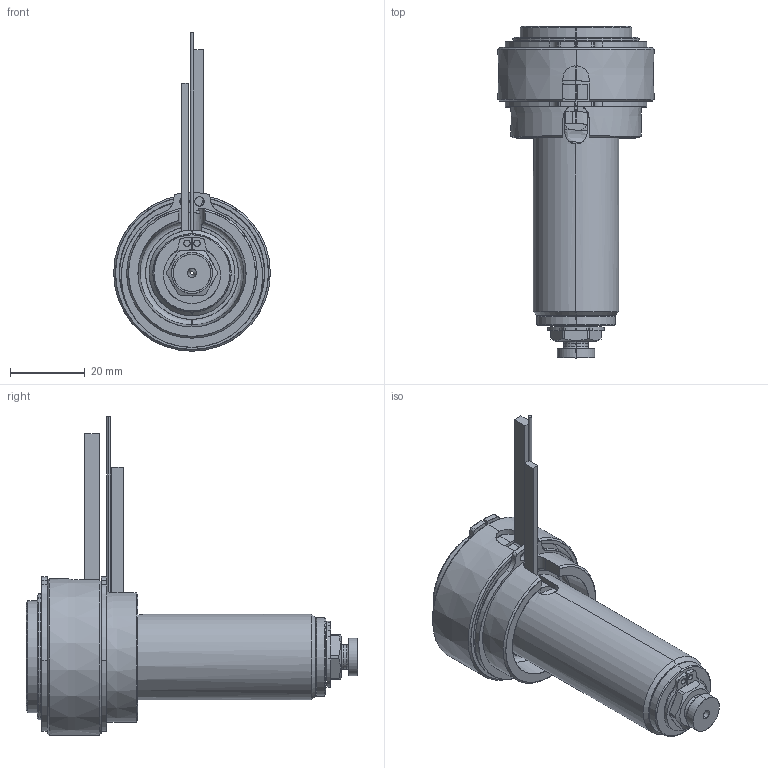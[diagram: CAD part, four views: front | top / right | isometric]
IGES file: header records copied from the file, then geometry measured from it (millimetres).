
Start section: SolidWorks IGES file using analytic representation for surfaces
Global section: file name: C:\Users\luca.EMPAD\Desktop\TEM\UGBE3501-M-A-5 [Ød-1.0 P-0 ØC-6.0].IGS; native system: SolidWorks 2012; preprocessor: SolidWorks 2012; author: luca; date: 120330.135408; units: millimetre
Bounding box: 42 x 89 x 85.4 mm (x, y, z)
Surface area: 26696.8 mm2 (no closed solid volume)
Topology: 0 solids, 0 shells, 186 faces, 3326 edges, 3326 vertices
Faces by surface type: revolution 118, bspline 68
